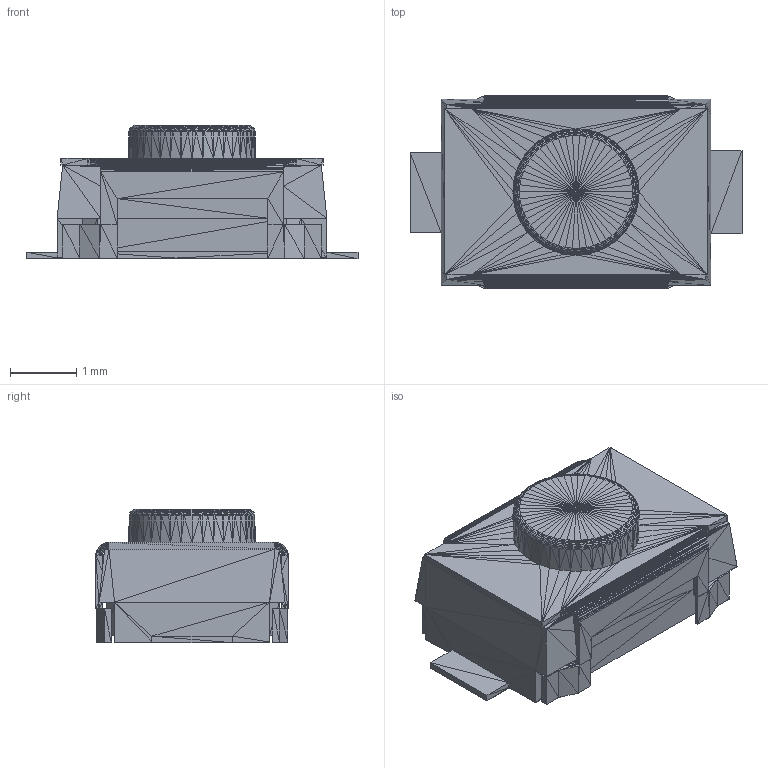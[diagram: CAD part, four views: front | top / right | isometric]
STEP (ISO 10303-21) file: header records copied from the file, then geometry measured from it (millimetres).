
FILE_DESCRIPTION(('auto-generated'),'2;1');
FILE_SCHEMA(('CONFIG_CONTROL_DESIGN'));
Bounding box: 5 x 2.9 x 2.01 mm (x, y, z)
Surface area: 56.7 mm2 (no closed solid volume)
Topology: 0 solids, 12 shells, 3488 faces, 5906 edges, 2380 vertices
Faces by surface type: plane 3488
Entity records: 57290 total; most frequent: ORIENTED_EDGE 10464, DIRECTION 8636, LINE 5906, EDGE_CURVE 5906, VECTOR 4144, AXIS2_PLACEMENT_3D 3489, PLANE 3488, EDGE_LOOP 3488
